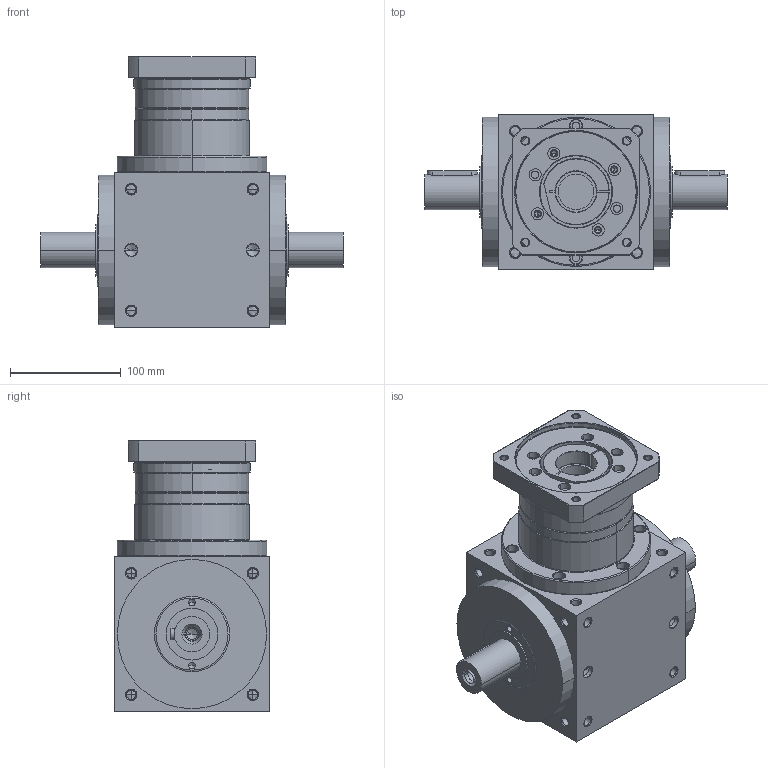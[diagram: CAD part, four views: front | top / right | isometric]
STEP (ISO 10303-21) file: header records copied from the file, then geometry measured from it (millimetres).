
FILE_DESCRIPTION((''),'2;1');
FILE_NAME('AT140FL1-P0403401001_ASM','2009-02-04T',('d00080'),(''),'PRO/ENGINEER BY PARAMETRIC TECHNOLOGY CORPORATION, 2006170','PRO/ENGINEER BY PARAMETRIC TECHNOLOGY CORPORATION, 2006170','');
FILE_SCHEMA(('CONFIG_CONTROL_DESIGN'));
Length unit declared in the file: millimetre
Products named in the file (6): AT140FL-A; P1801600001; P1502600001; P0501400001; P0403401001; AT140FL1-P0403401001_ASM
Assembly tree (5 placements, depth 2):
  AT140FL1-P0403401001_ASM
    AT140FL-A
    P1801600001
    P1502600001
    P0501400001
    P0403401001
Bounding box: 274 x 140 x 245 mm (x, y, z)
Volume: 3824269.4 mm3; surface area: 327532.4 mm2
Topology: 5 solids, 49 shells, 851 faces, 2116 edges, 1276 vertices
Faces by surface type: cylinder 382, cone 306, plane 127, torus 36
Entity records: 25921 total; most frequent: CARTESIAN_POINT 5485, DIRECTION 4604, ORIENTED_EDGE 3872, EDGE_CURVE 2024, AXIS2_PLACEMENT_3D 1932, VERTEX_POINT 1276, CIRCLE 1060, EDGE_LOOP 1032
